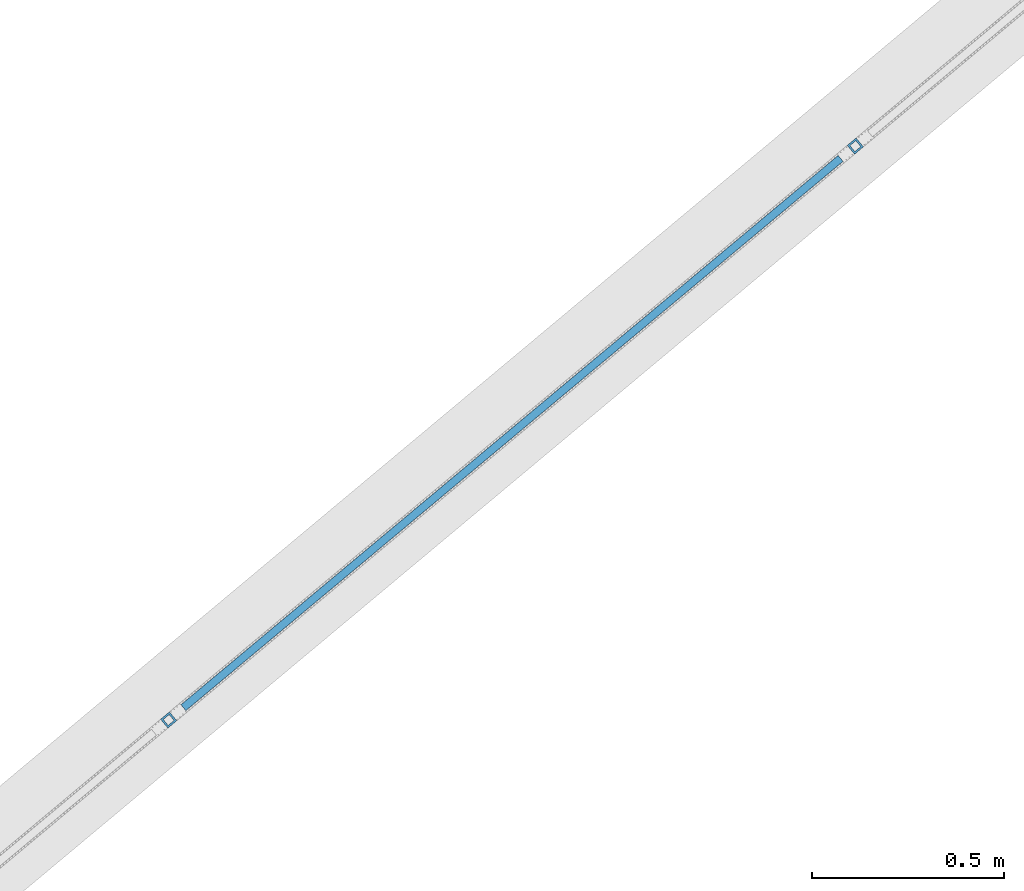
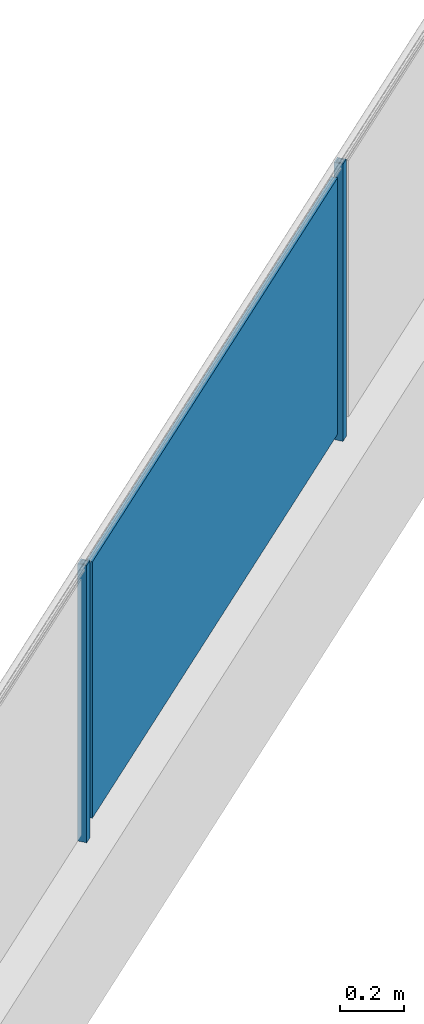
# One storey, part 25 of 75: 3 building element parts, 1 element without a shape of its own.
"""IFC4 building model written with IfcOpenShell, lengths in metres."""

from ifc_helpers import new_model, entity, si_unit, converted_unit, derived_unit, direction, frame, origin_with_axes, place, context, subcontext, project, spatial, polygons, material, type_object, element, aggregate, save


model = new_model("IFC4")

# Units and contexts
model_context = context("Model", 3, precision=1e-05, world=origin_with_axes(), true_north=direction((0.0, 1.0)))
body_context = subcontext(model_context, "Body", "Model", "MODEL_VIEW")
ifc_project = project(units=[si_unit("LENGTHUNIT", "METRE"), si_unit("AREAUNIT", "SQUARE_METRE"), si_unit("VOLUMEUNIT", "CUBIC_METRE"), converted_unit("PLANEANGLEUNIT", "DEGREE", entity("IfcPlaneAngleMeasure", 0.0174532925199), si_unit("PLANEANGLEUNIT", "RADIAN"), dimensions=[0, 0, 0, 0, 0, 0, 0]), converted_unit("TIMEUNIT", "Year", entity("IfcTimeMeasure", 31556926.0), si_unit("TIMEUNIT", "SECOND"), dimensions=[0, 0, 1, 0, 0, 0, 0]), si_unit("MASSUNIT", "GRAM", prefix="KILO"), si_unit("THERMODYNAMICTEMPERATUREUNIT", "DEGREE_CELSIUS"), si_unit("LUMINOUSINTENSITYUNIT", "LUMEN"), si_unit("ENERGYUNIT", "JOULE", prefix="MEGA"), derived_unit("THERMALCONDUCTANCEUNIT", [(si_unit("POWERUNIT", "WATT"), 1), (si_unit("LENGTHUNIT", "METRE"), -1), (si_unit("THERMODYNAMICTEMPERATUREUNIT", "KELVIN"), -1)]), derived_unit("SPECIFICHEATCAPACITYUNIT", [(si_unit("ENERGYUNIT", "JOULE"), 1), (si_unit("MASSUNIT", "GRAM", prefix="KILO"), -1), (si_unit("THERMODYNAMICTEMPERATUREUNIT", "KELVIN"), -1)]), derived_unit("MASSDENSITYUNIT", [(si_unit("MASSUNIT", "GRAM", prefix="KILO"), 1), (si_unit("VOLUMEUNIT", "CUBIC_METRE"), -1)])], contexts=[model_context])

# Site, building, storey
site_placement = place(None, frame((-0.00153261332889, -0.00661245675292, 0.0), z_axis=(0.0, 0.0, 1.0), x_axis=(1.0, 0.0, 0.0)))
site = spatial("IfcSite", under=ifc_project, at=site_placement, Name="Gelände", CompositionType="ELEMENT")
building_placement = place(site_placement, origin_with_axes())
building = spatial("IfcBuilding", under=site, at=building_placement, Name="Gebäude", CompositionType="ELEMENT")
storey_placement = place(building_placement, frame((0.0, 0.0, -0.22), z_axis=(0.0, 0.0, 1.0), x_axis=(1.0, 0.0, 0.0)))
storey = spatial("IfcBuildingStorey", under=building, at=storey_placement, Name="EG", CompositionType="ELEMENT", Elevation=-0.22)

# Railing, building element parts
railing_type = type_object("IfcRailingType", Name="Geländerart", PredefinedType="NOTDEFINED")
railing_placement = place(storey_placement, frame((-12.1608341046, 23.557810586, 0.523948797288), z_axis=(0.0, 0.0, 1.0), x_axis=(1.0, 0.0, 0.0)))
railing = element("IfcRailing", 1, at=railing_placement, inside=storey, type_object=railing_type, Name="Geländer - 001", PredefinedType="NOTDEFINED")
ifc_material_1 = material(Name="Aluminium")
building_element_part_1_placement = place(railing_placement, origin_with_axes())
building_element_part_1 = element("IfcBuildingElementPart", 2, at=building_element_part_1_placement, material=ifc_material_1, Name="Aluminium", PredefinedType="NOTDEFINED", context=body_context, shape_type="Tessellation", body=[
    polygons([(22.9423490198, -14.4311782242, 0.0), (22.9231108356, -14.4081588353, 0.0), (22.9231108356, -14.4081588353, 1.06), (22.9423490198, -14.4311782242, 1.06), (22.9193296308, -14.4504164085, 0.0), (22.9000914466, -14.4273970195, 0.0), (22.9353060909, -14.4305480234, 0.0), (22.9224806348, -14.4152017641, 0.0), (22.9071343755, -14.4280272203, 0.0), (22.9199598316, -14.4433734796, 0.0), (22.9000914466, -14.4273970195, 1.06), (22.9193296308, -14.4504164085, 1.06), (22.9353060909, -14.4305480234, 1.06), (22.9199598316, -14.4433734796, 1.06), (22.9071343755, -14.4280272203, 1.06), (22.9224806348, -14.4152017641, 1.06)], [[[1, 2, 3, 4]], [[1, 5, 6, 2], [7, 8, 9, 10]], [[2, 6, 11, 3]], [[4, 3, 11, 12], [13, 14, 15, 16]], [[5, 1, 4, 12]], [[6, 5, 12, 11]], [[8, 7, 13, 16]], [[9, 8, 16, 15]], [[10, 9, 15, 14]], [[7, 10, 14, 13]]], closed=True),
])
ifc_material_2 = material(Name="Zaun")
building_element_part_2_placement = place(railing_placement, origin_with_axes())
building_element_part_2 = element("IfcBuildingElementPart", 3, at=building_element_part_2_placement, material=ifc_material_2, Name="Zaun", PredefinedType="NOTDEFINED", context=body_context, shape_type="Tessellation", body=[
    polygons([(24.6673535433, -12.956944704, 0.05), (22.9531731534, -14.3895508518, 0.05), (22.9531731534, -14.3895508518, 1.03), (24.6673535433, -12.956944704, 1.03), (22.9659986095, -14.4048971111, 0.05), (24.6801789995, -12.9722909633, 0.05), (22.9659986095, -14.4048971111, 1.03), (24.6801789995, -12.9722909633, 1.03)], [[[1, 2, 3, 4]], [[5, 2, 1, 6]], [[7, 3, 2, 5]], [[4, 3, 7, 8]], [[1, 4, 8, 6]], [[7, 5, 6, 8]]], closed=True),
])
building_element_part_3_placement = place(railing_placement, origin_with_axes())
building_element_part_3 = element("IfcBuildingElementPart", 4, at=building_element_part_3_placement, material=ifc_material_1, Name="Aluminium", PredefinedType="NOTDEFINED", context=body_context, shape_type="Tessellation", body=[
    polygons([(24.7332607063, -12.9344447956, 0.0), (24.714022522, -12.9114254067, 0.0), (24.714022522, -12.9114254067, 1.06), (24.7332607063, -12.9344447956, 1.06), (24.7102413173, -12.9536829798, 0.0), (24.6910031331, -12.9306635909, 0.0), (24.7262177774, -12.9338145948, 0.0), (24.7133923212, -12.9184683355, 0.0), (24.6980460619, -12.9312937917, 0.0), (24.7108715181, -12.946640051, 0.0), (24.6910031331, -12.9306635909, 1.06), (24.7102413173, -12.9536829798, 1.06), (24.7262177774, -12.9338145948, 1.06), (24.7108715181, -12.946640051, 1.06), (24.6980460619, -12.9312937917, 1.06), (24.7133923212, -12.9184683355, 1.06)], [[[1, 2, 3, 4]], [[1, 5, 6, 2], [7, 8, 9, 10]], [[2, 6, 11, 3]], [[4, 3, 11, 12], [13, 14, 15, 16]], [[5, 1, 4, 12]], [[6, 5, 12, 11]], [[8, 7, 13, 16]], [[9, 8, 16, 15]], [[10, 9, 15, 14]], [[7, 10, 14, 13]]], closed=True),
])
aggregate(railing, [building_element_part_1, building_element_part_2, building_element_part_3])

save(model, "model.ifc")
